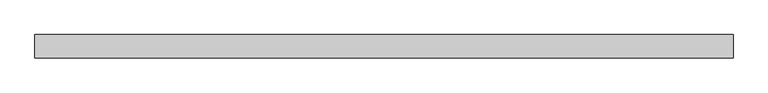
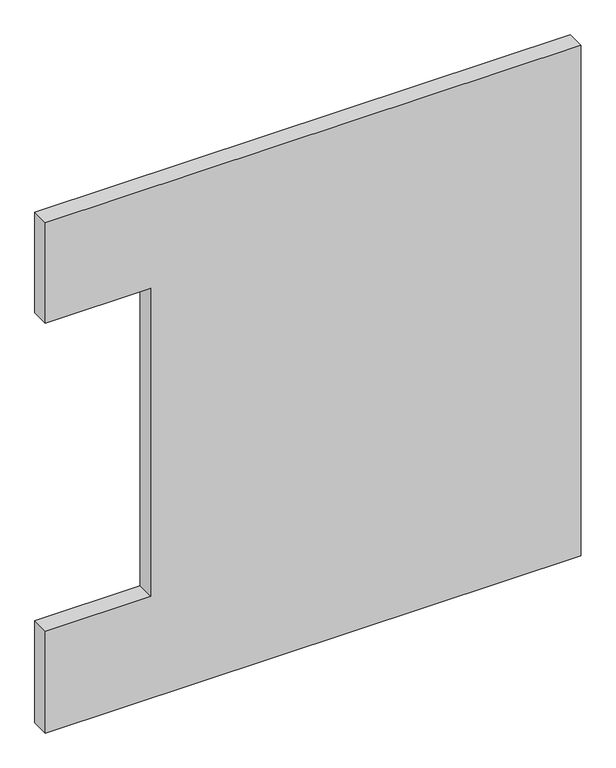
"""IFC4 building model written with IfcOpenShell, lengths in millimetres: plate geometry, Пустая системная панель : Пустая системная панель."""

from ifc_helpers import new_model, si_unit, frame, origin, place, context, project, spatial, polyline, outline, extrude, source, transform, mapped, element, save


def plate_78243b5a(model_context):
    return source(origin(), model_context, "Body", "SweptSolid", [
        extrude(outline(polyline([(0.0, -1490.0), (0.0, 1490.0), (3000.0, 1490.0), (3000.0, -1490.0), (2410.0, -1490.0), (2410.0, -905.0), (600.0, -905.0), (600.0, -1490.0), (0.0, -1490.0)])), frame((0.0, -50.0, 0.0), z_axis=(0.0, 1.0, 0.0), x_axis=(0.0, 0.0, 1.0)), (0.0, 0.0, 1.0), 100.0),
    ])


if __name__ == "__main__":
    model = new_model("IFC4")
    model_context = context("Model", 3, world=origin())
    ifc_project = project(units=[si_unit("LENGTHUNIT", "METRE", prefix="MILLI")], contexts=[model_context])
    site = spatial("IfcSite", under=ifc_project)
    building = spatial("IfcBuilding", under=site)
    placement = place(None, origin())
    plate_shape = plate_78243b5a(model_context)
    element("IfcPlate", 1, ObjectType="Пустая системная панель : Пустая системная панель", at=placement, inside=building, context=model_context, shape_type="MappedRepresentation", body=[
        mapped(plate_shape, transform((0.0, 0.0, 0.0), x_axis=(1.0, 0.0, 0.0), y_axis=(0.0, 1.0, 0.0), z_axis=(0.0, 0.0, 1.0))),
    ])
    save(model, "model.ifc")
